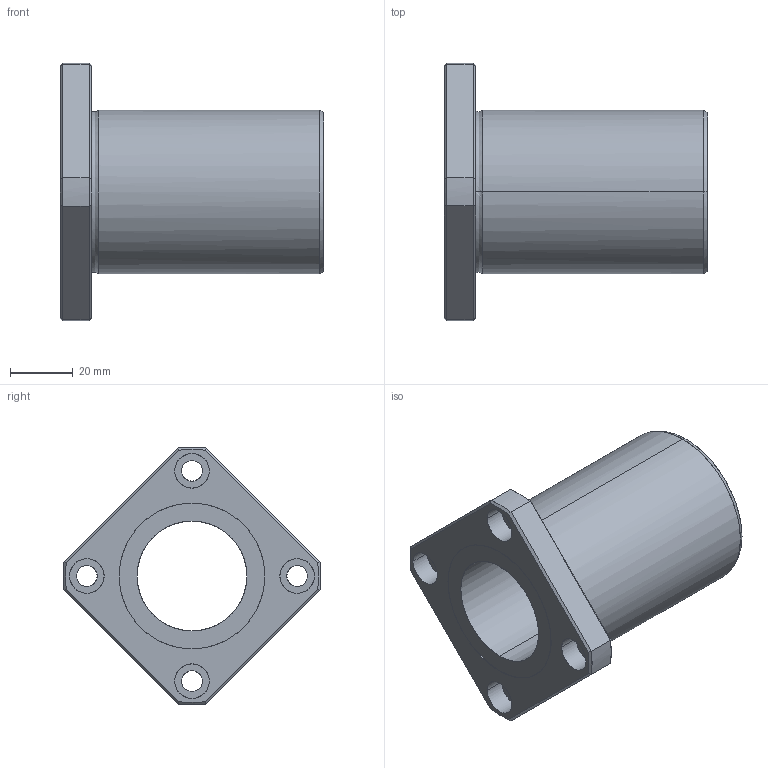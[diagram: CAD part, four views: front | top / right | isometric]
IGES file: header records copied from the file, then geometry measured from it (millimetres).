
Global section: file name: No Iges File Name specified; native system: AutoDesk Inventor R11.0; preprocessor: AutoDesk Inventor Iges Exporter R11.0; author: No Author specified; organization: No Organization specified; date: 20170921.115753; units: millimetre
Bounding box: 84 x 81.99 x 82 mm (x, y, z)
Surface area: 30550.5 mm2 (no closed solid volume)
Topology: 0 solids, 0 shells, 62 faces, 380 edges, 380 vertices
Faces by surface type: bspline 62
